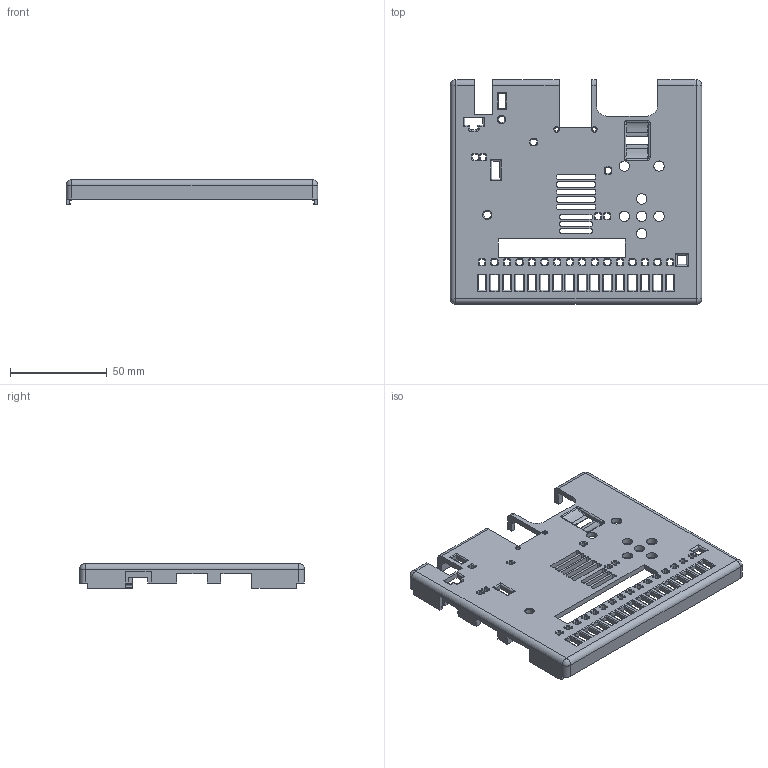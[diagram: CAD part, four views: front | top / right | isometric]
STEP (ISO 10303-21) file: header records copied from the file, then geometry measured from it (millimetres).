
FILE_DESCRIPTION(/* description */ ('STEP AP242 Edition 2','CAx-IF Rec.Pracs.---Representation and Presentation of Product Manufacturing Information (PMI)---4.0---2014-10-13','CAx-IF Rec.Pracs.---3D Tessellated Geometry---0.4---2014-09-14','2;1','CAx-IF Rec.Pracs.---User Defined Attributes---1.5---2016-08-15'),/* implementation_level */ '2;1');
FILE_NAME(/* name */ 'Untitled - Jumper Grabber + Ventilation',/* time_stamp */ '2026-05-27T17:40:04Z',/* author */ (''),/* organization */ (''),/* preprocessor_version */ 'ST-DEVELOPER v20',/* originating_system */ 'ONSHAPE BY PTC INC, 1.215',/* authorisation */ ' ');
FILE_SCHEMA (('AP242_MANAGED_MODEL_BASED_3D_ENGINEERING_MIM_LF { 1 0 10303 442 3 1 4 }'));
Length unit declared in the file: metre
Products named in the file (1): Jumper Grabber + Ventilation
Bounding box: 130.36 x 116.46 x 12.92 mm (x, y, z)
Volume: 40795 mm3; surface area: 34185.3 mm2
Topology: 1 solids, 1 shells, 777 faces, 2031 edges, 1250 vertices
Faces by surface type: cylinder 352, plane 304, torus 99, bspline 16, sphere 6
Full cylindrical faces by diameter (mm): 2 x2, 4 x1, 5.35 x7
Entity records: 24197 total; most frequent: CARTESIAN_POINT 4524, DIRECTION 4238, ORIENTED_EDGE 4024, EDGE_CURVE 2012, AXIS2_PLACEMENT_3D 1501, VERTEX_POINT 1250, LINE 1236, VECTOR 1236
